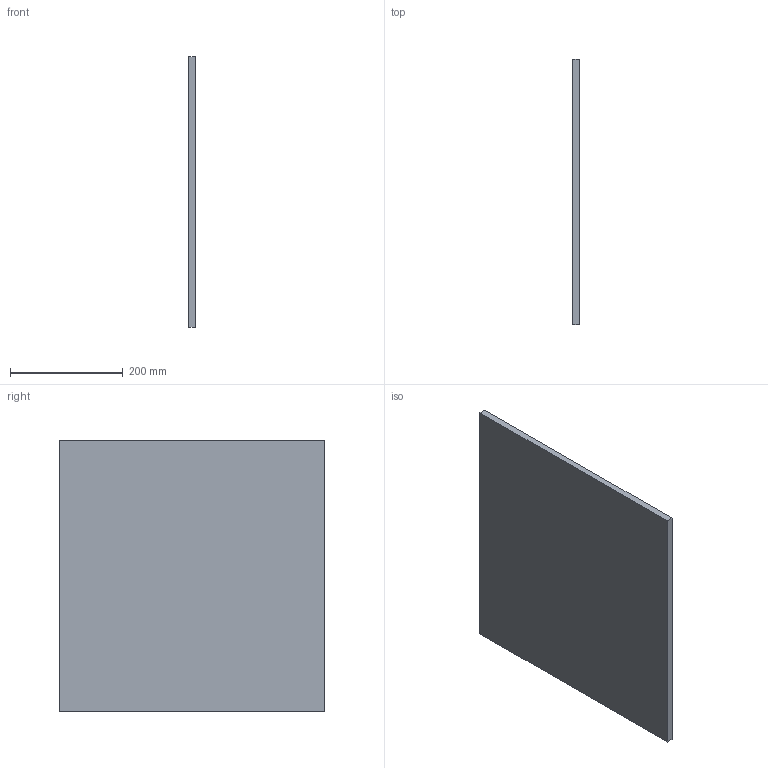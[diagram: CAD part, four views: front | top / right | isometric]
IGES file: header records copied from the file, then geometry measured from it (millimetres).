
Start section: Data from Parasolid IGES Translator 19.0.9, Copyright(c) 2006 Siemens PL M Software. All Rights Reserved.
Global section: file name: noorth-SI-H 48 D 47 W 1,2_9689.igs; native system: By Siemens PLM Incorporated; preprocessor: XPlus GENERIC/IGES 19.0.9; author: Noname; organization: Noname; date: 20200710.084409; units: metre
Bounding box: 12 x 470 x 480 mm (x, y, z)
Volume: 2707200 mm3; surface area: 474000 mm2
Topology: 1 solids, 1 shells, 6 faces, 12 edges, 8 vertices
Faces by surface type: plane 6
